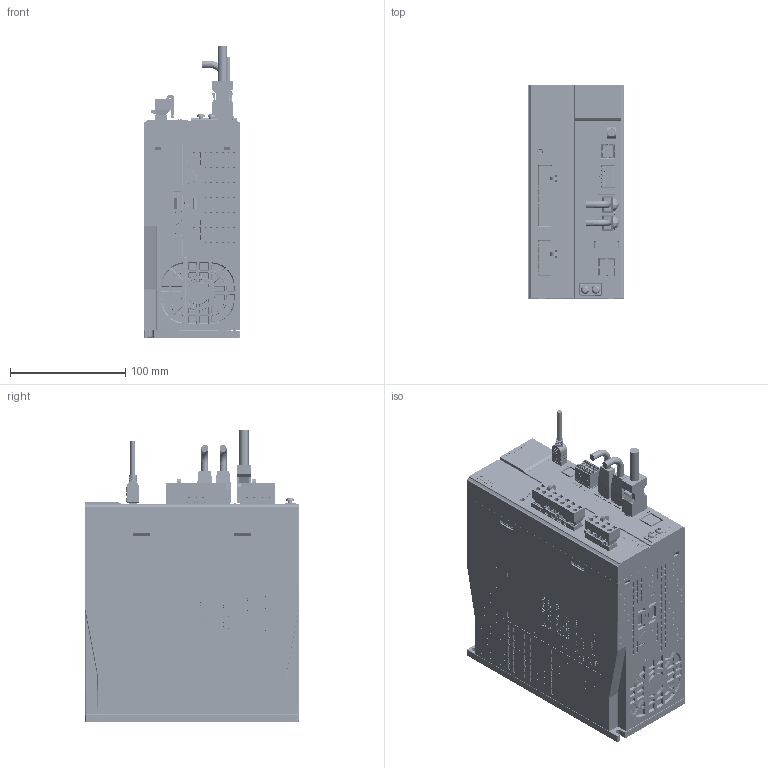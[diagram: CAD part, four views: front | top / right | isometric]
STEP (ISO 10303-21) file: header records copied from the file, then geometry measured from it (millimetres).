
FILE_DESCRIPTION(/* description */ (''),/* implementation_level */ '2;1');
FILE_NAME(/* name */ 'DS5C2-21P5-PTA-官网图-EPLAN图-240423',/* time_stamp */ '2024-04-23T16:47:54+08:00',/* author */ (''),/* organization */ (''),/* preprocessor_version */ 'ST-DEVELOPER v19.2',/* originating_system */ 'Rhino 8.1',/* authorisation */ '');
FILE_SCHEMA (('CONFIG_CONTROL_DESIGN'));
Products named in the file (3): Document; 图块 01; 图块 02
Bounding box: 83.1 x 185.7 x 252.2 mm (x, y, z)
Volume: 1977733.8 mm3; surface area: 513300.1 mm2
Topology: 927 solids, 929 shells, 24925 faces, 65633 edges, 42900 vertices
Faces by surface type: plane 17366, cylinder 4310, bspline 3249
Entity records: 854978 total; most frequent: CARTESIAN_POINT 387678, ORIENTED_EDGE 130756, EDGE_CURVE 65402, B_SPLINE_CURVE_WITH_KNOTS 61207, VERTEX_POINT 42900, DIRECTION 29554, EDGE_LOOP 26676, AXIS2_PLACEMENT_3D 25610
